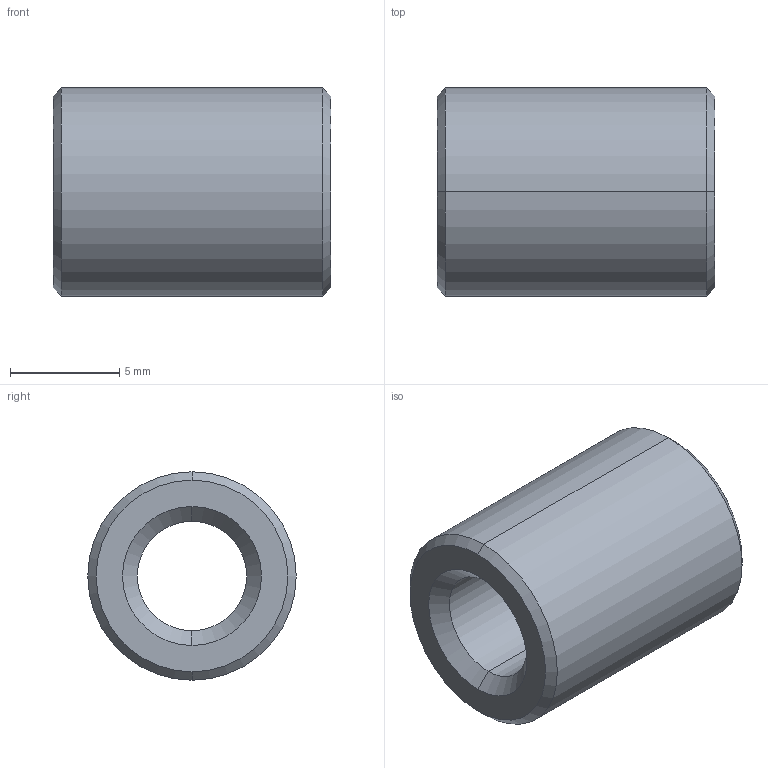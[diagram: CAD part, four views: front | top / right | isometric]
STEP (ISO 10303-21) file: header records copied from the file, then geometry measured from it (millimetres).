
FILE_DESCRIPTION(('starvars output'),'2;1');
FILE_NAME('cv20190724093834000060579.stp','09:38:34 2019/07/24',( 'Thomas Industrial Network Germany GmbH'),( 'Thomas Industrial Network Germany GmbH'),'unknown preprocess','ACIS' ,'unknown authorization');
FILE_SCHEMA(('AUTOMOTIVE_DESIGN_CC2 {UNKNOWN IMPLEMENTATION LEVEL}'));
Length unit declared in the file: millimetre
Products named in the file (1): PRODUCT_ID_1
Bounding box: 12.7 x 9.53 x 9.53 mm (x, y, z)
Volume: 643.2 mm3; surface area: 657.9 mm2
Topology: 1 solids, 1 shells, 14 faces, 28 edges, 16 vertices
Faces by surface type: cone 8, cylinder 4, plane 2
Entity records: 493 total; most frequent: ORIENTED_EDGE 56, CARTESIAN_POINT 44, DIRECTION 44, EDGE_CURVE 28, VERTEX_POINT 16, AXIS2_PLACEMENT_3D 16, EDGE_LOOP 16, FACE_BOUND 16
